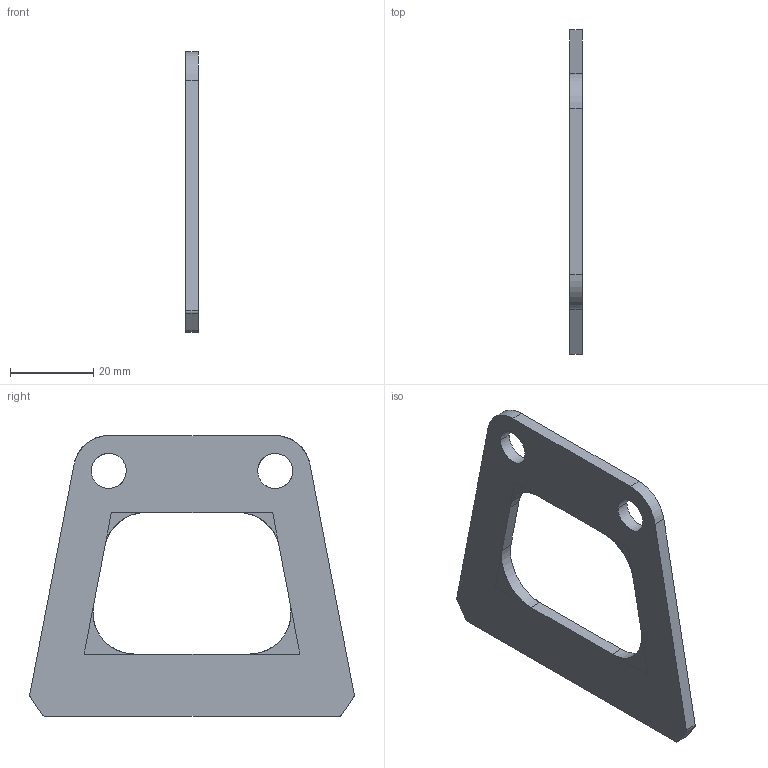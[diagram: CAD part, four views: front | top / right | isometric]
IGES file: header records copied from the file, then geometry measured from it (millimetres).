
Start section: START RECORD GO HERE.
Global section: file name: 20M_SU_07003 (chape rear ohlins R).igs; native system: IBM CATIA IGES - CATIA Version 5 Release 19 ; preprocessor: CATIA Version 5 Release 19 ; author: mik75; organization: LAPTOP-SUH344G9; date: 20200116.193815; units: millimetre
Bounding box: 3 x 77.99 x 67.5 mm (x, y, z)
Surface area: 7213.2 mm2 (no closed solid volume)
Topology: 0 solids, 0 shells, 34 faces, 177 edges, 183 vertices
Faces by surface type: plane 20, revolution 14
